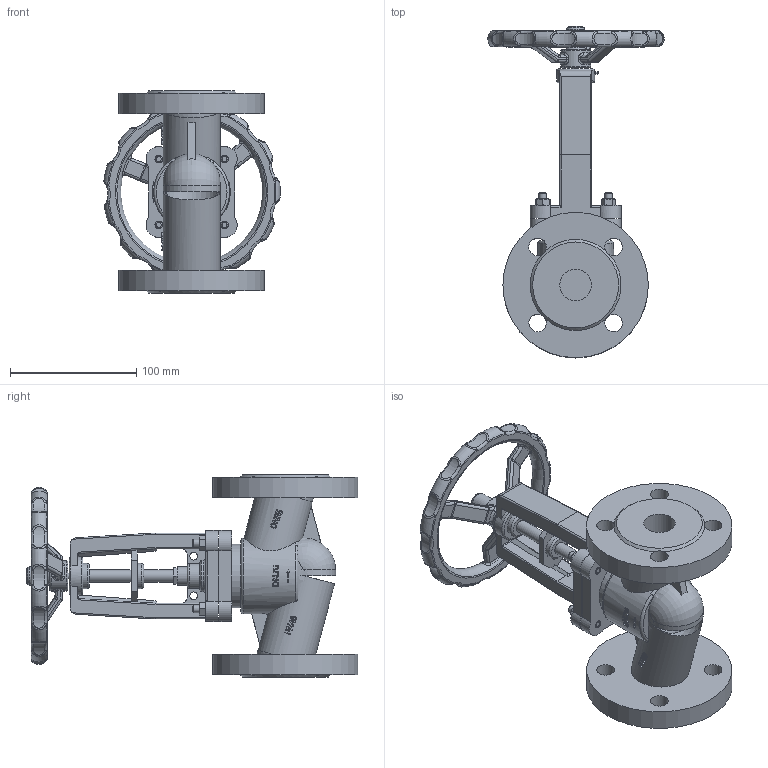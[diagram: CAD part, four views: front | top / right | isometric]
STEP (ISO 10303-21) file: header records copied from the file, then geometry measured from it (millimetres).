
FILE_DESCRIPTION(('STEP AP242'), '1');
FILE_NAME('VSO2130M-F-S 孰囡囗 玎镱痦 DN.ru 捏25 畜40', '2026-04-27T22:15:23', ('DN.ru'), (''), 'C3D Converter', 'C3D Toolkit', '');
FILE_SCHEMA(('AP242_MANAGED_MODEL_BASED_3D_ENGINEERING_MIM_LF { 1 0 10303 442 1 1 4 }'));
Length unit declared in the file: millimetre
Products named in the file (1): VSO2130M-F-S
Bounding box: 139.52 x 262.5 x 160 mm (x, y, z)
Volume: 822222.6 mm3; surface area: 161329.9 mm2
Topology: 1 solids, 1 shells, 959 faces, 2449 edges, 1523 vertices
Faces by surface type: plane 297, extrusion 219, cylinder 184, torus 117, sphere 65, bspline 58, cone 19
Full cylindrical faces by diameter (mm): 0.5 x1, 1 x1, 2 x2, 4.5 x1, 6 x14, 10 x2, 12.5 x1, 14 x8, 14.25 x1, 15 x1, 20 x2, 23.75 x1, 25 x2, 30 x1, 45 x2, 50 x1, 60 x1, 115 x2
Entity records: 68140 total; most frequent: CARTESIAN_POINT 39287, ORIENTED_EDGE 4702, DIRECTION 3644, EDGE_CURVE 2351, VERTEX_POINT 1517, AXIS2_PLACEMENT_3D 1320, EDGE_LOOP 1120, FACE_BOUND 1004
